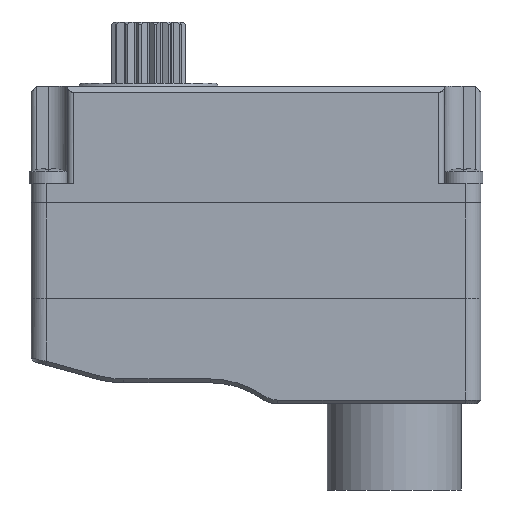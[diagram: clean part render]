
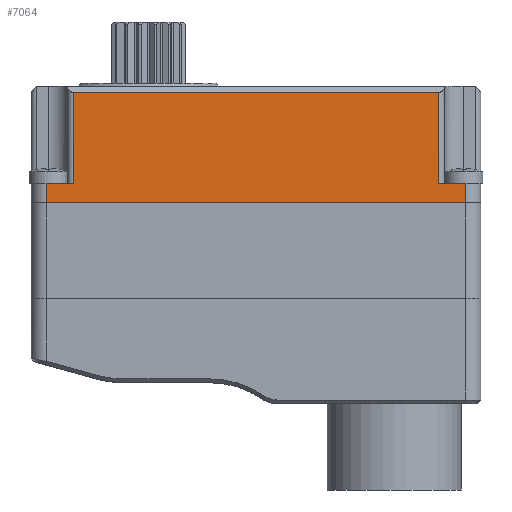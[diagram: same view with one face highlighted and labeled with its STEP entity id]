
A CAD part, front view. The second image highlights one B-rep face of the part: STEP entity #7064.
In plain terms, the highlighted planar face has unit normal (0, -1, 0).
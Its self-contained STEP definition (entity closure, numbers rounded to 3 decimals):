
#17 = CARTESIAN_POINT ( 'NONE',  ( -96.757, -14.714, 2.204 ) ) ;
#110 = LINE ( 'NONE', #8136, #8207 ) ;
#118 = ORIENTED_EDGE ( 'NONE', *, *, #6440, .T. ) ;
#760 = VECTOR ( 'NONE', #4756, 1000. ) ;
#855 = EDGE_CURVE ( 'NONE', #8687, #13439, #1930, .T. ) ;
#924 = CARTESIAN_POINT ( 'NONE',  ( -98.157, -14.714, 10.137 ) ) ;
#1068 = PLANE ( 'NONE',  #1261 ) ;
#1261 = AXIS2_PLACEMENT_3D ( 'NONE', #10707, #10760, #5998 ) ;
#1265 = CARTESIAN_POINT ( 'NONE',  ( -118.657, -14.714, 2.204 ) ) ;
#1334 = VECTOR ( 'NONE', #12630, 1000. ) ;
#1564 = CARTESIAN_POINT ( 'NONE',  ( -117.257, -14.714, 5.354 ) ) ;
#1868 = VECTOR ( 'NONE', #5902, 1000. ) ;
#1930 = LINE ( 'NONE', #6918, #11322 ) ;
#2187 = FACE_OUTER_BOUND ( 'NONE', #7863, .T. ) ;
#2244 = VECTOR ( 'NONE', #7085, 1000. ) ;
#2487 = CARTESIAN_POINT ( 'NONE',  ( -118.657, -14.714, 5.354 ) ) ;
#2658 = CARTESIAN_POINT ( 'NONE',  ( -96.757, -14.714, 4.354 ) ) ;
#3342 = LINE ( 'NONE', #11345, #760 ) ;
#3366 = DIRECTION ( 'NONE',  ( 0., 0., 1. ) ) ;
#3401 = ORIENTED_EDGE ( 'NONE', *, *, #6086, .T. ) ;
#3440 = DIRECTION ( 'NONE',  ( -1., 0., 0. ) ) ;
#3713 = VERTEX_POINT ( 'NONE', #12073 ) ;
#3925 = LINE ( 'NONE', #1265, #1868 ) ;
#4359 = ORIENTED_EDGE ( 'NONE', *, *, #6946, .T. ) ;
#4585 = CARTESIAN_POINT ( 'NONE',  ( -122.007, -14.714, 10.137 ) ) ;
#4756 = DIRECTION ( 'NONE',  ( 0., 0., -1. ) ) ;
#5179 = EDGE_CURVE ( 'NONE', #14326, #14229, #110, .T. ) ;
#5372 = ORIENTED_EDGE ( 'NONE', *, *, #5179, .T. ) ;
#5753 = EDGE_CURVE ( 'NONE', #3713, #13712, #9628, .T. ) ;
#5902 = DIRECTION ( 'NONE',  ( 0., 0., -1. ) ) ;
#5998 = DIRECTION ( 'NONE',  ( 0., 0., -1. ) ) ;
#6086 = EDGE_CURVE ( 'NONE', #14229, #7323, #3925, .T. ) ;
#6440 = EDGE_CURVE ( 'NONE', #7323, #13712, #8886, .T. ) ;
#6918 = CARTESIAN_POINT ( 'NONE',  ( -98.157, -14.714, 2.204 ) ) ;
#6946 = EDGE_CURVE ( 'NONE', #13439, #8091, #12117, .T. ) ;
#7028 = ORIENTED_EDGE ( 'NONE', *, *, #9741, .T. ) ;
#7064 = ADVANCED_FACE ( 'NONE', ( #2187 ), #1068, .T. ) ;
#7085 = DIRECTION ( 'NONE',  ( 0., 0., -1. ) ) ;
#7180 = CARTESIAN_POINT ( 'NONE',  ( -122.007, -14.714, 5.354 ) ) ;
#7323 = VERTEX_POINT ( 'NONE', #12385 ) ;
#7863 = EDGE_LOOP ( 'NONE', ( #5372, #3401, #118, #8198, #13496, #11837, #4359, #7028 ) ) ;
#8091 = VERTEX_POINT ( 'NONE', #14632 ) ;
#8136 = CARTESIAN_POINT ( 'NONE',  ( -122.457, -14.714, 5.354 ) ) ;
#8198 = ORIENTED_EDGE ( 'NONE', *, *, #5753, .F. ) ;
#8207 = VECTOR ( 'NONE', #11805, 1000. ) ;
#8331 = EDGE_CURVE ( 'NONE', #3713, #8687, #8424, .T. ) ;
#8424 = LINE ( 'NONE', #7180, #13123 ) ;
#8687 = VERTEX_POINT ( 'NONE', #11208 ) ;
#8886 = LINE ( 'NONE', #12683, #1334 ) ;
#9628 = LINE ( 'NONE', #17, #2244 ) ;
#9741 = EDGE_CURVE ( 'NONE', #8091, #14326, #3342, .T. ) ;
#10358 = DIRECTION ( 'NONE',  ( -1., 0., 0. ) ) ;
#10707 = CARTESIAN_POINT ( 'NONE',  ( -122.007, -14.714, 2.204 ) ) ;
#10760 = DIRECTION ( 'NONE',  ( 0., -1., 0. ) ) ;
#11208 = CARTESIAN_POINT ( 'NONE',  ( -98.157, -14.714, 5.354 ) ) ;
#11322 = VECTOR ( 'NONE', #3366, 1000. ) ;
#11345 = CARTESIAN_POINT ( 'NONE',  ( -117.257, -14.714, 2.204 ) ) ;
#11805 = DIRECTION ( 'NONE',  ( -1., 0., 0. ) ) ;
#11837 = ORIENTED_EDGE ( 'NONE', *, *, #855, .T. ) ;
#12073 = CARTESIAN_POINT ( 'NONE',  ( -96.757, -14.714, 5.354 ) ) ;
#12117 = LINE ( 'NONE', #4585, #15005 ) ;
#12385 = CARTESIAN_POINT ( 'NONE',  ( -118.657, -14.714, 4.354 ) ) ;
#12630 = DIRECTION ( 'NONE',  ( 1., 0., 0. ) ) ;
#12683 = CARTESIAN_POINT ( 'NONE',  ( -119.457, -14.714, 4.354 ) ) ;
#13123 = VECTOR ( 'NONE', #3440, 1000. ) ;
#13439 = VERTEX_POINT ( 'NONE', #924 ) ;
#13496 = ORIENTED_EDGE ( 'NONE', *, *, #8331, .T. ) ;
#13712 = VERTEX_POINT ( 'NONE', #2658 ) ;
#14229 = VERTEX_POINT ( 'NONE', #2487 ) ;
#14326 = VERTEX_POINT ( 'NONE', #1564 ) ;
#14632 = CARTESIAN_POINT ( 'NONE',  ( -117.257, -14.714, 10.137 ) ) ;
#15005 = VECTOR ( 'NONE', #10358, 1000. ) ;
